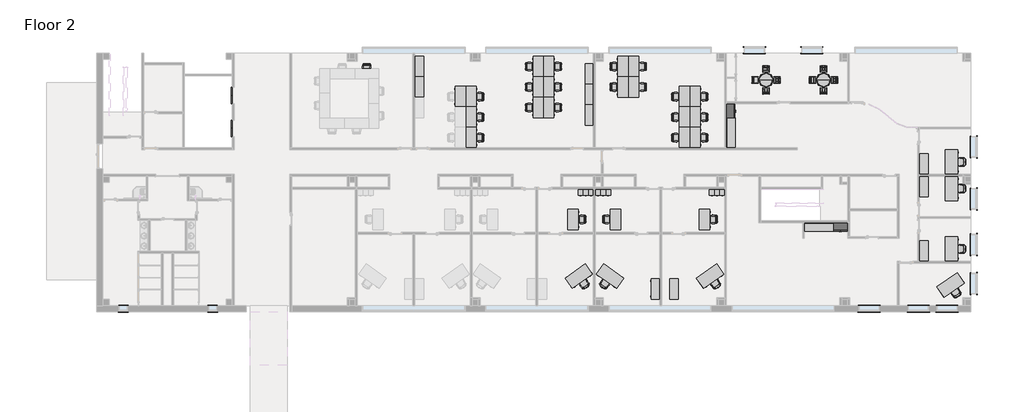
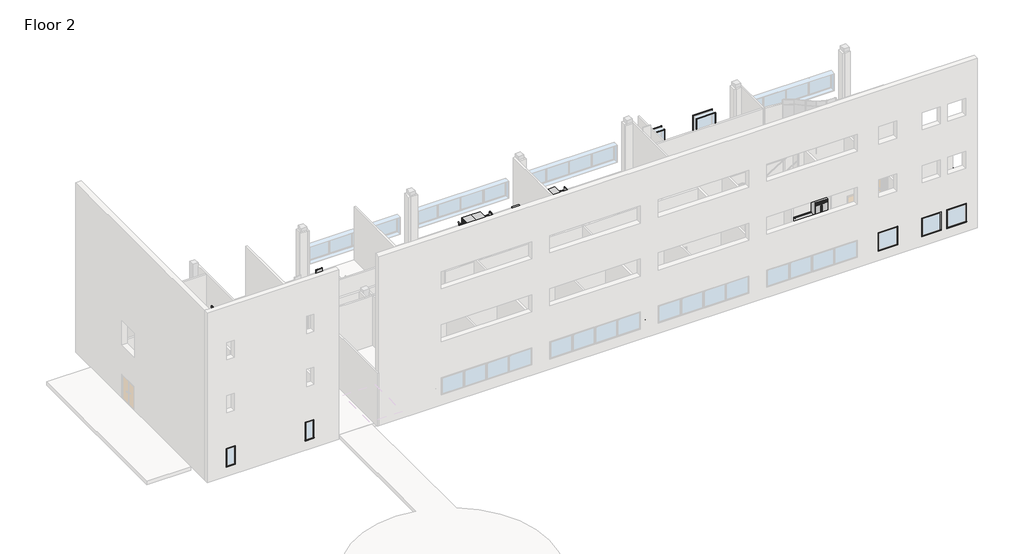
# One storey, part 6 of 6: 95 furniture elements, 26 proxies.
"""IFC4 building model written with IfcOpenShell, lengths in millimetres."""

from ifc_helpers import new_model, si_unit, origin, place, context, project, spatial, transform, mapped, element, save
from components import proxy_ae548678, proxy_0447ab4b, trim_window_exterior_flat_with_sill_05ca63db, trim_window_exterior_flat_with_sill_4912eb0d, trim_window_interior_flat_picture_frame_a1a3bc7c, trim_window_interior_flat_picture_frame_978fd00d, furniture_338da5bd, furniture_552c1472, furniture_48aa8ab9, chair_executive_chair_executive_8d69e98c, chair_executive_chair_executive_a5be4872, chair_stacking_chair_stacking_4df0970f, chair_task_arms_chair_task_arms_fa5a08ef, chair_task_arms_chair_task_arms_3c69ee15, furniture_b725675f, furniture_6bf0da8d, furniture_0f0bb7e9, furniture_a9e97cbc, furniture_f1eb905c, furniture_e30ff25b, furniture_33f25304, furniture_65204735, furniture_77f0a01d

model = new_model("IFC4")

# Units and contexts
model_context = context("Model", 3, world=origin())
ifc_project = project(units=[si_unit("LENGTHUNIT", "METRE", prefix="MILLI")], contexts=[model_context])

# Site, building, storey
site = spatial("IfcSite", under=ifc_project)
building = spatial("IfcBuilding", under=site)
storey = spatial("IfcBuildingStorey", under=building, Name="Floor 2", Elevation=5486.4)

# Proxies
placement = place(None, origin())
proxy_shape = proxy_ae548678(model_context)
element("IfcBuildingElementProxy", 1, Name="Elevator-Center : 72\" x 114\" Hospital min.", ObjectType="Elevator-Center : 72\" x 114\" Hospital min.", at=placement, inside=storey, context=model_context, shape_type="MappedRepresentation", body=[
    mapped(proxy_shape, transform((6707.2192024, 51882.5975333, 5486.4), x_axis=(0.0, 1.0, 0.0), y_axis=(-1.0, 0.0, 0.0), z_axis=(0.0, 0.0, 1.0))),
])
element("IfcBuildingElementProxy", 2, Name="Elevator-Center : 72\" x 114\" Hospital min.", ObjectType="Elevator-Center : 72\" x 114\" Hospital min.", at=placement, inside=storey, context=model_context, shape_type="MappedRepresentation", body=[
    mapped(proxy_shape, transform((6707.2192024, 54320.9975333, 5486.4), x_axis=(0.0, 1.0, 0.0), y_axis=(-1.0, 0.0, 0.0), z_axis=(0.0, 0.0, 1.0))),
])
proxy_2_shape = proxy_0447ab4b(model_context)
element("IfcBuildingElementProxy", 3, Name="Refrigerator-Side-by-Side : 42\" Left Side Freezer", ObjectType="Refrigerator-Side-by-Side : 42\" Left Side Freezer", at=placement, inside=storey, context=model_context, shape_type="MappedRepresentation", body=[
    mapped(proxy_2_shape, transform((51838.2567024, 44868.311889, 5486.4), x_axis=(1.0, 0.0, 0.0), y_axis=(0.0, 1.0, 0.0), z_axis=(0.0, 0.0, 1.0))),
])
element("IfcBuildingElementProxy", 4, Name="Refrigerator-Side-by-Side : 42\" Left Side Freezer", ObjectType="Refrigerator-Side-by-Side : 42\" Left Side Freezer", at=placement, inside=storey, context=model_context, shape_type="MappedRepresentation", body=[
    mapped(proxy_2_shape, transform((43251.4692024, 53086.799389, 5486.4), x_axis=(0.0, 1.0, 0.0), y_axis=(-1.0, 0.0, 0.0), z_axis=(0.0, 0.0, 1.0))),
])
trim_window_exterior_flat_with_sill_shape = trim_window_exterior_flat_with_sill_05ca63db(model_context)
element("IfcBuildingElementProxy", 5, Name="Trim-Window-Exterior-Flat : with Sill", ObjectType="Trim-Window-Exterior-Flat : with Sill", at=placement, inside=storey, context=model_context, shape_type="MappedRepresentation", body=[
    mapped(trim_window_exterior_flat_with_sill_shape, transform((61956.9817024, 46544.711889, 7924.8), x_axis=(0.0, 1.0, 0.0), y_axis=(0.0, 0.0, 1.0), z_axis=(1.0, 0.0, 0.0))),
])
element("IfcBuildingElementProxy", 6, Name="Trim-Window-Exterior-Flat : with Sill", ObjectType="Trim-Window-Exterior-Flat : with Sill", at=placement, inside=storey, context=model_context, shape_type="MappedRepresentation", body=[
    mapped(trim_window_exterior_flat_with_sill_shape, transform((61956.9817024, 43141.111889, 7924.8), x_axis=(0.0, 1.0, 0.0), y_axis=(0.0, 0.0, 1.0), z_axis=(1.0, 0.0, 0.0))),
])
element("IfcBuildingElementProxy", 7, Name="Trim-Window-Exterior-Flat : with Sill", ObjectType="Trim-Window-Exterior-Flat : with Sill", at=placement, inside=storey, context=model_context, shape_type="MappedRepresentation", body=[
    mapped(trim_window_exterior_flat_with_sill_shape, transform((61956.9817024, 40245.511889, 7924.8), x_axis=(0.0, 1.0, 0.0), y_axis=(0.0, 0.0, 1.0), z_axis=(1.0, 0.0, 0.0))),
])
element("IfcBuildingElementProxy", 8, Name="Trim-Window-Exterior-Flat : with Sill", ObjectType="Trim-Window-Exterior-Flat : with Sill", at=placement, inside=storey, context=model_context, shape_type="MappedRepresentation", body=[
    mapped(trim_window_exterior_flat_with_sill_shape, transform((61956.9817024, 50405.511889, 7924.8), x_axis=(0.0, 1.0, 0.0), y_axis=(0.0, 0.0, 1.0), z_axis=(1.0, 0.0, 0.0))),
])
element("IfcBuildingElementProxy", 9, Name="Trim-Window-Exterior-Flat : with Sill", ObjectType="Trim-Window-Exterior-Flat : with Sill", at=placement, inside=storey, context=model_context, shape_type="MappedRepresentation", body=[
    mapped(trim_window_exterior_flat_with_sill_shape, transform((59742.4192024, 38164.299389, 7924.8), x_axis=(1.0, 0.0, 0.0), y_axis=(0.0, 0.0, 1.0), z_axis=(0.0, -1.0, 0.0))),
])
element("IfcBuildingElementProxy", 10, Name="Trim-Window-Exterior-Flat : with Sill", ObjectType="Trim-Window-Exterior-Flat : with Sill", at=placement, inside=storey, context=model_context, shape_type="MappedRepresentation", body=[
    mapped(trim_window_exterior_flat_with_sill_shape, transform((57608.8192024, 38164.299389, 7924.8), x_axis=(1.0, 0.0, 0.0), y_axis=(0.0, 0.0, 1.0), z_axis=(0.0, -1.0, 0.0))),
])
element("IfcBuildingElementProxy", 11, Name="Trim-Window-Exterior-Flat : with Sill", ObjectType="Trim-Window-Exterior-Flat : with Sill", at=placement, inside=storey, context=model_context, shape_type="MappedRepresentation", body=[
    mapped(trim_window_exterior_flat_with_sill_shape, transform((53951.2192024, 38164.299389, 7924.8), x_axis=(1.0, 0.0, 0.0), y_axis=(0.0, 0.0, 1.0), z_axis=(0.0, -1.0, 0.0))),
])
element("IfcBuildingElementProxy", 12, Name="Trim-Window-Exterior-Flat : with Sill", ObjectType="Trim-Window-Exterior-Flat : with Sill", at=placement, inside=storey, context=model_context, shape_type="MappedRepresentation", body=[
    mapped(trim_window_exterior_flat_with_sill_shape, transform((45423.1692024, 57820.724389, 7924.8), x_axis=(-1.0, 0.0, 0.0), y_axis=(0.0, 0.0, 1.0), z_axis=(0.0, 1.0, 0.0))),
])
element("IfcBuildingElementProxy", 13, Name="Trim-Window-Exterior-Flat : with Sill", ObjectType="Trim-Window-Exterior-Flat : with Sill", at=placement, inside=storey, context=model_context, shape_type="MappedRepresentation", body=[
    mapped(trim_window_exterior_flat_with_sill_shape, transform((49690.3692024, 57820.724389, 7924.8), x_axis=(-1.0, 0.0, 0.0), y_axis=(0.0, 0.0, 1.0), z_axis=(0.0, 1.0, 0.0))),
])
trim_window_exterior_flat_with_sill_2_shape = trim_window_exterior_flat_with_sill_4912eb0d(model_context)
element("IfcBuildingElementProxy", 14, Name="Trim-Window-Exterior-Flat : with Sill", ObjectType="Trim-Window-Exterior-Flat : with Sill", at=placement, inside=storey, context=model_context, shape_type="MappedRepresentation", body=[
    mapped(trim_window_exterior_flat_with_sill_2_shape, transform((-1446.1807976, 38164.299389, 7924.8), x_axis=(1.0, 0.0, 0.0), y_axis=(0.0, 0.0, 1.0), z_axis=(0.0, -1.0, 0.0))),
])
element("IfcBuildingElementProxy", 15, Name="Trim-Window-Exterior-Flat : with Sill", ObjectType="Trim-Window-Exterior-Flat : with Sill", at=placement, inside=storey, context=model_context, shape_type="MappedRepresentation", body=[
    mapped(trim_window_exterior_flat_with_sill_2_shape, transform((5189.5692024, 38164.299389, 7924.8), x_axis=(1.0, 0.0, 0.0), y_axis=(0.0, 0.0, 1.0), z_axis=(0.0, -1.0, 0.0))),
])
trim_window_interior_flat_picture_frame_shape = trim_window_interior_flat_picture_frame_a1a3bc7c(model_context)
element("IfcBuildingElementProxy", 16, Name="Trim-Window-Interior-Flat : Picture Frame", ObjectType="Trim-Window-Interior-Flat : Picture Frame", at=placement, inside=storey, context=model_context, shape_type="MappedRepresentation", body=[
    mapped(trim_window_interior_flat_picture_frame_shape, transform((61502.9567024, 46544.711889, 7924.8), x_axis=(0.0, -1.0, 0.0), y_axis=(0.0, 0.0, 1.0), z_axis=(-1.0, 0.0, 0.0))),
])
element("IfcBuildingElementProxy", 17, Name="Trim-Window-Interior-Flat : Picture Frame", ObjectType="Trim-Window-Interior-Flat : Picture Frame", at=placement, inside=storey, context=model_context, shape_type="MappedRepresentation", body=[
    mapped(trim_window_interior_flat_picture_frame_shape, transform((61502.9567024, 43141.111889, 7924.8), x_axis=(0.0, -1.0, 0.0), y_axis=(0.0, 0.0, 1.0), z_axis=(-1.0, 0.0, 0.0))),
])
element("IfcBuildingElementProxy", 18, Name="Trim-Window-Interior-Flat : Picture Frame", ObjectType="Trim-Window-Interior-Flat : Picture Frame", at=placement, inside=storey, context=model_context, shape_type="MappedRepresentation", body=[
    mapped(trim_window_interior_flat_picture_frame_shape, transform((61502.9567024, 40245.511889, 7924.8), x_axis=(0.0, -1.0, 0.0), y_axis=(0.0, 0.0, 1.0), z_axis=(-1.0, 0.0, 0.0))),
])
element("IfcBuildingElementProxy", 19, Name="Trim-Window-Interior-Flat : Picture Frame", ObjectType="Trim-Window-Interior-Flat : Picture Frame", at=placement, inside=storey, context=model_context, shape_type="MappedRepresentation", body=[
    mapped(trim_window_interior_flat_picture_frame_shape, transform((61502.9567024, 50405.511889, 7924.8), x_axis=(0.0, -1.0, 0.0), y_axis=(0.0, 0.0, 1.0), z_axis=(-1.0, 0.0, 0.0))),
])
element("IfcBuildingElementProxy", 20, Name="Trim-Window-Interior-Flat : Picture Frame", ObjectType="Trim-Window-Interior-Flat : Picture Frame", at=placement, inside=storey, context=model_context, shape_type="MappedRepresentation", body=[
    mapped(trim_window_interior_flat_picture_frame_shape, transform((59742.4192024, 38618.324389, 7924.8), x_axis=(-1.0, 0.0, 0.0), y_axis=(0.0, 0.0, 1.0), z_axis=(0.0, 1.0, 0.0))),
])
element("IfcBuildingElementProxy", 21, Name="Trim-Window-Interior-Flat : Picture Frame", ObjectType="Trim-Window-Interior-Flat : Picture Frame", at=placement, inside=storey, context=model_context, shape_type="MappedRepresentation", body=[
    mapped(trim_window_interior_flat_picture_frame_shape, transform((57608.8192024, 38618.324389, 7924.8), x_axis=(-1.0, 0.0, 0.0), y_axis=(0.0, 0.0, 1.0), z_axis=(0.0, 1.0, 0.0))),
])
element("IfcBuildingElementProxy", 22, Name="Trim-Window-Interior-Flat : Picture Frame", ObjectType="Trim-Window-Interior-Flat : Picture Frame", at=placement, inside=storey, context=model_context, shape_type="MappedRepresentation", body=[
    mapped(trim_window_interior_flat_picture_frame_shape, transform((53951.2192024, 38618.324389, 7924.8), x_axis=(-1.0, 0.0, 0.0), y_axis=(0.0, 0.0, 1.0), z_axis=(0.0, 1.0, 0.0))),
])
element("IfcBuildingElementProxy", 23, Name="Trim-Window-Interior-Flat : Picture Frame", ObjectType="Trim-Window-Interior-Flat : Picture Frame", at=placement, inside=storey, context=model_context, shape_type="MappedRepresentation", body=[
    mapped(trim_window_interior_flat_picture_frame_shape, transform((45423.1692024, 57366.699389, 7924.8), x_axis=(1.0, 0.0, 0.0), y_axis=(0.0, 0.0, 1.0), z_axis=(0.0, -1.0, 0.0))),
])
element("IfcBuildingElementProxy", 24, Name="Trim-Window-Interior-Flat : Picture Frame", ObjectType="Trim-Window-Interior-Flat : Picture Frame", at=placement, inside=storey, context=model_context, shape_type="MappedRepresentation", body=[
    mapped(trim_window_interior_flat_picture_frame_shape, transform((49690.3692024, 57366.699389, 7924.8), x_axis=(1.0, 0.0, 0.0), y_axis=(0.0, 0.0, 1.0), z_axis=(0.0, -1.0, 0.0))),
])
trim_window_interior_flat_picture_frame_2_shape = trim_window_interior_flat_picture_frame_978fd00d(model_context)
element("IfcBuildingElementProxy", 25, Name="Trim-Window-Interior-Flat : Picture Frame", ObjectType="Trim-Window-Interior-Flat : Picture Frame", at=placement, inside=storey, context=model_context, shape_type="MappedRepresentation", body=[
    mapped(trim_window_interior_flat_picture_frame_2_shape, transform((-1446.1807976, 38618.324389, 7924.8), x_axis=(-1.0, 0.0, 0.0), y_axis=(0.0, 0.0, 1.0), z_axis=(0.0, 1.0, 0.0))),
])
element("IfcBuildingElementProxy", 26, Name="Trim-Window-Interior-Flat : Picture Frame", ObjectType="Trim-Window-Interior-Flat : Picture Frame", at=placement, inside=storey, context=model_context, shape_type="MappedRepresentation", body=[
    mapped(trim_window_interior_flat_picture_frame_2_shape, transform((5189.5692024, 38618.324389, 7924.8), x_axis=(-1.0, 0.0, 0.0), y_axis=(0.0, 0.0, 1.0), z_axis=(0.0, 1.0, 0.0))),
])

# Furniture
furniture_shape = furniture_338da5bd(model_context)
element("IfcFurniture", 27, ObjectType="Base Cabinet-Double Door & 2 Drawer : 30\"", at=placement, inside=storey, context=model_context, shape_type="MappedRepresentation", body=[
    mapped(furniture_shape, transform((49498.5939974, 44766.711889, 5486.4), x_axis=(1.0, 0.0, 0.0), y_axis=(0.0, 1.0, 0.0), z_axis=(0.0, 0.0, 1.0))),
])
element("IfcFurniture", 28, ObjectType="Base Cabinet-Double Door & 2 Drawer : 30\"", at=placement, inside=storey, context=model_context, shape_type="MappedRepresentation", body=[
    mapped(furniture_shape, transform((50260.5939974, 44766.711889, 5486.4), x_axis=(1.0, 0.0, 0.0), y_axis=(0.0, 1.0, 0.0), z_axis=(0.0, 0.0, 1.0))),
])
element("IfcFurniture", 29, ObjectType="Base Cabinet-Double Door & 2 Drawer : 30\"", at=placement, inside=storey, context=model_context, shape_type="MappedRepresentation", body=[
    mapped(furniture_shape, transform((43353.0692024, 50691.5741841, 5486.4), x_axis=(0.0, 1.0, 0.0), y_axis=(-1.0, 0.0, 0.0), z_axis=(0.0, 0.0, 1.0))),
])
element("IfcFurniture", 30, ObjectType="Base Cabinet-Double Door & 2 Drawer : 30\"", at=placement, inside=storey, context=model_context, shape_type="MappedRepresentation", body=[
    mapped(furniture_shape, transform((43353.0692024, 51453.5741841, 5486.4), x_axis=(0.0, 1.0, 0.0), y_axis=(-1.0, 0.0, 0.0), z_axis=(0.0, 0.0, 1.0))),
])
furniture_2_shape = furniture_552c1472(model_context)
element("IfcFurniture", 31, ObjectType="Cabinet-File 3 Drawer : 15\" x 18\"", at=placement, inside=storey, context=model_context, shape_type="MappedRepresentation", body=[
    mapped(furniture_2_shape, transform((33930.5656494, 47175.7961891, 5486.4), x_axis=(1.0, 0.0, 0.0), y_axis=(0.0, 1.0, 0.0), z_axis=(0.0, 0.0, 1.0))),
])
element("IfcFurniture", 32, ObjectType="Cabinet-File 3 Drawer : 15\" x 18\"", at=placement, inside=storey, context=model_context, shape_type="MappedRepresentation", body=[
    mapped(furniture_2_shape, transform((34311.5656494, 47175.7961891, 5486.4), x_axis=(1.0, 0.0, 0.0), y_axis=(0.0, 1.0, 0.0), z_axis=(0.0, 0.0, 1.0))),
])
element("IfcFurniture", 33, ObjectType="Cabinet-File 3 Drawer : 15\" x 18\"", at=placement, inside=storey, context=model_context, shape_type="MappedRepresentation", body=[
    mapped(furniture_2_shape, transform((34692.5656494, 47175.7961891, 5486.4), x_axis=(1.0, 0.0, 0.0), y_axis=(0.0, 1.0, 0.0), z_axis=(0.0, 0.0, 1.0))),
])
furniture_3_shape = furniture_48aa8ab9(model_context)
element("IfcFurniture", 34, ObjectType="Cabinet-File 3 Drawer : 15\" x 18\"", at=placement, inside=storey, context=model_context, shape_type="MappedRepresentation", body=[
    mapped(furniture_3_shape, transform((33154.0727553, 47175.7961891, 5486.4), x_axis=(-1.0, 0.0, 0.0), y_axis=(0.0, -1.0, 0.0), z_axis=(0.0, 0.0, 1.0))),
])
element("IfcFurniture", 35, ObjectType="Cabinet-File 3 Drawer : 15\" x 18\"", at=placement, inside=storey, context=model_context, shape_type="MappedRepresentation", body=[
    mapped(furniture_3_shape, transform((32773.0727553, 47175.7961891, 5486.4), x_axis=(-1.0, 0.0, 0.0), y_axis=(0.0, -1.0, 0.0), z_axis=(0.0, 0.0, 1.0))),
])
element("IfcFurniture", 36, ObjectType="Cabinet-File 3 Drawer : 15\" x 18\"", at=placement, inside=storey, context=model_context, shape_type="MappedRepresentation", body=[
    mapped(furniture_3_shape, transform((32392.0727553, 47175.7961891, 5486.4), x_axis=(-1.0, 0.0, 0.0), y_axis=(0.0, -1.0, 0.0), z_axis=(0.0, 0.0, 1.0))),
])
element("IfcFurniture", 37, ObjectType="Cabinet-File 3 Drawer : 15\" x 18\"", at=placement, inside=storey, context=model_context, shape_type="MappedRepresentation", body=[
    mapped(furniture_3_shape, transform((42910.8477553, 47175.7961891, 5486.4), x_axis=(-1.0, 0.0, 0.0), y_axis=(0.0, -1.0, 0.0), z_axis=(0.0, 0.0, 1.0))),
])
element("IfcFurniture", 38, ObjectType="Cabinet-File 3 Drawer : 15\" x 18\"", at=placement, inside=storey, context=model_context, shape_type="MappedRepresentation", body=[
    mapped(furniture_3_shape, transform((42529.8477553, 47175.7961891, 5486.4), x_axis=(-1.0, 0.0, 0.0), y_axis=(0.0, -1.0, 0.0), z_axis=(0.0, 0.0, 1.0))),
])
element("IfcFurniture", 39, ObjectType="Cabinet-File 3 Drawer : 15\" x 18\"", at=placement, inside=storey, context=model_context, shape_type="MappedRepresentation", body=[
    mapped(furniture_3_shape, transform((42148.8477553, 47175.7961891, 5486.4), x_axis=(-1.0, 0.0, 0.0), y_axis=(0.0, -1.0, 0.0), z_axis=(0.0, 0.0, 1.0))),
])
chair_executive_chair_executive_shape = chair_executive_chair_executive_8d69e98c(model_context)
element("IfcFurniture", 40, ObjectType="Chair-Executive : Chair-Executive", at=placement, inside=storey, context=model_context, shape_type="MappedRepresentation", body=[
    mapped(chair_executive_chair_executive_shape, transform((34189.995015, 40313.6122918, 5486.4), x_axis=(0.819152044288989, -0.57357643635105, 0.0), y_axis=(0.57357643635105, 0.819152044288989, 0.0), z_axis=(0.0, 0.0, 1.0))),
])
element("IfcFurniture", 41, ObjectType="Chair-Executive : Chair-Executive", at=placement, inside=storey, context=model_context, shape_type="MappedRepresentation", body=[
    mapped(chair_executive_chair_executive_shape, transform((60783.2356072, 47167.3085693, 5486.4), x_axis=(0.0, 1.0, 0.0), y_axis=(-1.0, 0.0, 0.0), z_axis=(0.0, 0.0, 1.0))),
])
chair_executive_chair_executive_2_shape = chair_executive_chair_executive_a5be4872(model_context)
element("IfcFurniture", 42, ObjectType="Chair-Executive : Chair-Executive", at=placement, inside=storey, context=model_context, shape_type="MappedRepresentation", body=[
    mapped(chair_executive_chair_executive_2_shape, transform((32894.6433897, 40313.6122918, 5486.4), x_axis=(-0.819152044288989, -0.57357643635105, 0.0), y_axis=(0.57357643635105, -0.819152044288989, 0.0), z_axis=(0.0, 0.0, 1.0))),
])
element("IfcFurniture", 43, ObjectType="Chair-Executive : Chair-Executive", at=placement, inside=storey, context=model_context, shape_type="MappedRepresentation", body=[
    mapped(chair_executive_chair_executive_2_shape, transform((42651.4183897, 40313.6122918, 5486.4), x_axis=(-0.819152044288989, -0.57357643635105, 0.0), y_axis=(0.57357643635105, -0.819152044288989, 0.0), z_axis=(0.0, 0.0, 1.0))),
])
element("IfcFurniture", 44, ObjectType="Chair-Executive : Chair-Executive", at=placement, inside=storey, context=model_context, shape_type="MappedRepresentation", body=[
    mapped(chair_executive_chair_executive_2_shape, transform((60510.0435605, 39658.0167973, 5486.4), x_axis=(-0.819152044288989, -0.57357643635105, 0.0), y_axis=(0.57357643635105, -0.819152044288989, 0.0), z_axis=(0.0, 0.0, 1.0))),
])
element("IfcFurniture", 45, ObjectType="Chair-Executive : Chair-Executive", at=placement, inside=storey, context=model_context, shape_type="MappedRepresentation", body=[
    mapped(chair_executive_chair_executive_2_shape, transform((60783.2356072, 42969.3652087, 5486.4), x_axis=(0.0, -1.0, 0.0), y_axis=(1.0, 0.0, 0.0), z_axis=(0.0, 0.0, 1.0))),
])
element("IfcFurniture", 46, ObjectType="Chair-Executive : Chair-Executive", at=placement, inside=storey, context=model_context, shape_type="MappedRepresentation", body=[
    mapped(chair_executive_chair_executive_2_shape, transform((60783.2356072, 49427.3152087, 5486.4), x_axis=(0.0, -1.0, 0.0), y_axis=(1.0, 0.0, 0.0), z_axis=(0.0, 0.0, 1.0))),
])
chair_stacking_chair_stacking_shape = chair_stacking_chair_stacking_4df0970f(model_context)
element("IfcFurniture", 47, ObjectType="Chair-Stacking : Chair-Stacking", at=placement, inside=storey, context=model_context, shape_type="MappedRepresentation", body=[
    mapped(chair_stacking_chair_stacking_shape, transform((50739.3683827, 54457.5746587, 5486.4), x_axis=(1.0, 0.0, 0.0), y_axis=(0.0, 1.0, 0.0), z_axis=(0.0, 0.0, 1.0))),
])
element("IfcFurniture", 48, ObjectType="Chair-Stacking : Chair-Stacking", at=placement, inside=storey, context=model_context, shape_type="MappedRepresentation", body=[
    mapped(chair_stacking_chair_stacking_shape, transform((51482.0706259, 55558.3752626, 5486.4), x_axis=(0.0, 1.0, 0.0), y_axis=(-1.0, 0.0, 0.0), z_axis=(0.0, 0.0, 1.0))),
])
element("IfcFurniture", 49, ObjectType="Chair-Stacking : Chair-Stacking", at=placement, inside=storey, context=model_context, shape_type="MappedRepresentation", body=[
    mapped(chair_stacking_chair_stacking_shape, transform((50381.270022, 56301.0775058, 5486.4), x_axis=(-1.0, 0.0, 0.0), y_axis=(0.0, -1.0, 0.0), z_axis=(0.0, 0.0, 1.0))),
])
element("IfcFurniture", 50, ObjectType="Chair-Stacking : Chair-Stacking", at=placement, inside=storey, context=model_context, shape_type="MappedRepresentation", body=[
    mapped(chair_stacking_chair_stacking_shape, transform((49638.5677788, 55200.276902, 5486.4), x_axis=(0.0, -1.0, 0.0), y_axis=(1.0, 0.0, 0.0), z_axis=(0.0, 0.0, 1.0))),
])
element("IfcFurniture", 51, ObjectType="Chair-Stacking : Chair-Stacking", at=placement, inside=storey, context=model_context, shape_type="MappedRepresentation", body=[
    mapped(chair_stacking_chair_stacking_shape, transform((46472.1683827, 54457.5746587, 5486.4), x_axis=(1.0, 0.0, 0.0), y_axis=(0.0, 1.0, 0.0), z_axis=(0.0, 0.0, 1.0))),
])
element("IfcFurniture", 52, ObjectType="Chair-Stacking : Chair-Stacking", at=placement, inside=storey, context=model_context, shape_type="MappedRepresentation", body=[
    mapped(chair_stacking_chair_stacking_shape, transform((47214.8706259, 55558.3752626, 5486.4), x_axis=(0.0, 1.0, 0.0), y_axis=(-1.0, 0.0, 0.0), z_axis=(0.0, 0.0, 1.0))),
])
element("IfcFurniture", 53, ObjectType="Chair-Stacking : Chair-Stacking", at=placement, inside=storey, context=model_context, shape_type="MappedRepresentation", body=[
    mapped(chair_stacking_chair_stacking_shape, transform((46114.070022, 56301.0775058, 5486.4), x_axis=(-1.0, 0.0, 0.0), y_axis=(0.0, -1.0, 0.0), z_axis=(0.0, 0.0, 1.0))),
])
element("IfcFurniture", 54, ObjectType="Chair-Stacking : Chair-Stacking", at=placement, inside=storey, context=model_context, shape_type="MappedRepresentation", body=[
    mapped(chair_stacking_chair_stacking_shape, transform((45371.3677788, 55200.276902, 5486.4), x_axis=(0.0, -1.0, 0.0), y_axis=(1.0, 0.0, 0.0), z_axis=(0.0, 0.0, 1.0))),
])
chair_task_arms_chair_task_arms_shape = chair_task_arms_chair_task_arms_fa5a08ef(model_context)
element("IfcFurniture", 55, ObjectType="Chair-Task Arms : Chair-Task Arms", at=placement, inside=storey, context=model_context, shape_type="MappedRepresentation", body=[
    mapped(chair_task_arms_chair_task_arms_shape, transform((34425.0733007, 45161.7027087, 5486.4), x_axis=(0.0, -1.0, 0.0), y_axis=(1.0, 0.0, 0.0), z_axis=(0.0, 0.0, 1.0))),
])
element("IfcFurniture", 56, ObjectType="Chair-Task Arms : Chair-Task Arms", at=placement, inside=storey, context=model_context, shape_type="MappedRepresentation", body=[
    mapped(chair_task_arms_chair_task_arms_shape, transform((16765.9004892, 56317.2577906, 5486.4), x_axis=(-1.0, 0.0, 0.0), y_axis=(0.0, -1.0, 0.0), z_axis=(0.0, 0.0, 1.0))),
])
element("IfcFurniture", 57, ObjectType="Chair-Task Arms : Chair-Task Arms", at=placement, inside=storey, context=model_context, shape_type="MappedRepresentation", body=[
    mapped(chair_task_arms_chair_task_arms_shape, transform((41712.8009489, 50950.3210693, 5486.4), x_axis=(0.0, 1.0, 0.0), y_axis=(-1.0, 0.0, 0.0), z_axis=(0.0, 0.0, 1.0))),
])
element("IfcFurniture", 58, ObjectType="Chair-Task Arms : Chair-Task Arms", at=placement, inside=storey, context=model_context, shape_type="MappedRepresentation", body=[
    mapped(chair_task_arms_chair_task_arms_shape, transform((37134.7797162, 56233.5210693, 5486.4), x_axis=(0.0, 1.0, 0.0), y_axis=(-1.0, 0.0, 0.0), z_axis=(0.0, 0.0, 1.0))),
])
element("IfcFurniture", 59, ObjectType="Chair-Task Arms : Chair-Task Arms", at=placement, inside=storey, context=model_context, shape_type="MappedRepresentation", body=[
    mapped(chair_task_arms_chair_task_arms_shape, transform((37134.7797162, 54709.5210693, 5486.4), x_axis=(0.0, 1.0, 0.0), y_axis=(-1.0, 0.0, 0.0), z_axis=(0.0, 0.0, 1.0))),
])
element("IfcFurniture", 60, ObjectType="Chair-Task Arms : Chair-Task Arms", at=placement, inside=storey, context=model_context, shape_type="MappedRepresentation", body=[
    mapped(chair_task_arms_chair_task_arms_shape, transform((41712.8009489, 52474.3210693, 5486.4), x_axis=(0.0, 1.0, 0.0), y_axis=(-1.0, 0.0, 0.0), z_axis=(0.0, 0.0, 1.0))),
])
element("IfcFurniture", 61, ObjectType="Chair-Task Arms : Chair-Task Arms", at=placement, inside=storey, context=model_context, shape_type="MappedRepresentation", body=[
    mapped(chair_task_arms_chair_task_arms_shape, transform((41712.8009489, 53998.3210693, 5486.4), x_axis=(0.0, 1.0, 0.0), y_axis=(-1.0, 0.0, 0.0), z_axis=(0.0, 0.0, 1.0))),
])
element("IfcFurniture", 62, ObjectType="Chair-Task Arms : Chair-Task Arms", at=placement, inside=storey, context=model_context, shape_type="MappedRepresentation", body=[
    mapped(chair_task_arms_chair_task_arms_shape, transform((25071.315104, 50950.3210693, 5486.4), x_axis=(0.0, 1.0, 0.0), y_axis=(-1.0, 0.0, 0.0), z_axis=(0.0, 0.0, 1.0))),
])
element("IfcFurniture", 63, ObjectType="Chair-Task Arms : Chair-Task Arms", at=placement, inside=storey, context=model_context, shape_type="MappedRepresentation", body=[
    mapped(chair_task_arms_chair_task_arms_shape, transform((25071.315104, 52474.3210693, 5486.4), x_axis=(0.0, 1.0, 0.0), y_axis=(-1.0, 0.0, 0.0), z_axis=(0.0, 0.0, 1.0))),
])
element("IfcFurniture", 64, ObjectType="Chair-Task Arms : Chair-Task Arms", at=placement, inside=storey, context=model_context, shape_type="MappedRepresentation", body=[
    mapped(chair_task_arms_chair_task_arms_shape, transform((25071.315104, 53998.3210693, 5486.4), x_axis=(0.0, 1.0, 0.0), y_axis=(-1.0, 0.0, 0.0), z_axis=(0.0, 0.0, 1.0))),
])
element("IfcFurniture", 65, ObjectType="Chair-Task Arms : Chair-Task Arms", at=placement, inside=storey, context=model_context, shape_type="MappedRepresentation", body=[
    mapped(chair_task_arms_chair_task_arms_shape, transform((30844.5832347, 53185.5210693, 5486.4), x_axis=(0.0, 1.0, 0.0), y_axis=(-1.0, 0.0, 0.0), z_axis=(0.0, 0.0, 1.0))),
])
element("IfcFurniture", 66, ObjectType="Chair-Task Arms : Chair-Task Arms", at=placement, inside=storey, context=model_context, shape_type="MappedRepresentation", body=[
    mapped(chair_task_arms_chair_task_arms_shape, transform((30844.5832347, 54709.5210693, 5486.4), x_axis=(0.0, 1.0, 0.0), y_axis=(-1.0, 0.0, 0.0), z_axis=(0.0, 0.0, 1.0))),
])
element("IfcFurniture", 67, ObjectType="Chair-Task Arms : Chair-Task Arms", at=placement, inside=storey, context=model_context, shape_type="MappedRepresentation", body=[
    mapped(chair_task_arms_chair_task_arms_shape, transform((30844.5832347, 56233.5210693, 5486.4), x_axis=(0.0, 1.0, 0.0), y_axis=(-1.0, 0.0, 0.0), z_axis=(0.0, 0.0, 1.0))),
])
chair_task_arms_chair_task_arms_2_shape = chair_task_arms_chair_task_arms_3c69ee15(model_context)
element("IfcFurniture", 68, ObjectType="Chair-Task Arms : Chair-Task Arms", at=placement, inside=storey, context=model_context, shape_type="MappedRepresentation", body=[
    mapped(chair_task_arms_chair_task_arms_2_shape, transform((32659.565104, 45161.7027087, 5486.4), x_axis=(0.0, -1.0, 0.0), y_axis=(1.0, 0.0, 0.0), z_axis=(0.0, 0.0, 1.0))),
])
element("IfcFurniture", 69, ObjectType="Chair-Task Arms : Chair-Task Arms", at=placement, inside=storey, context=model_context, shape_type="MappedRepresentation", body=[
    mapped(chair_task_arms_chair_task_arms_2_shape, transform((42416.340104, 45161.7027087, 5486.4), x_axis=(0.0, -1.0, 0.0), y_axis=(1.0, 0.0, 0.0), z_axis=(0.0, 0.0, 1.0))),
])
element("IfcFurniture", 70, ObjectType="Chair-Task Arms : Chair-Task Arms", at=placement, inside=storey, context=model_context, shape_type="MappedRepresentation", body=[
    mapped(chair_task_arms_chair_task_arms_2_shape, transform((39541.3091456, 50950.3210693, 5486.4), x_axis=(0.0, 1.0, 0.0), y_axis=(-1.0, 0.0, 0.0), z_axis=(0.0, 0.0, 1.0))),
])
element("IfcFurniture", 71, ObjectType="Chair-Task Arms : Chair-Task Arms", at=placement, inside=storey, context=model_context, shape_type="MappedRepresentation", body=[
    mapped(chair_task_arms_chair_task_arms_2_shape, transform((34963.2879129, 56233.5210693, 5486.4), x_axis=(0.0, 1.0, 0.0), y_axis=(-1.0, 0.0, 0.0), z_axis=(0.0, 0.0, 1.0))),
])
element("IfcFurniture", 72, ObjectType="Chair-Task Arms : Chair-Task Arms", at=placement, inside=storey, context=model_context, shape_type="MappedRepresentation", body=[
    mapped(chair_task_arms_chair_task_arms_2_shape, transform((34963.2879129, 54709.5210693, 5486.4), x_axis=(0.0, 1.0, 0.0), y_axis=(-1.0, 0.0, 0.0), z_axis=(0.0, 0.0, 1.0))),
])
element("IfcFurniture", 73, ObjectType="Chair-Task Arms : Chair-Task Arms", at=placement, inside=storey, context=model_context, shape_type="MappedRepresentation", body=[
    mapped(chair_task_arms_chair_task_arms_2_shape, transform((39541.3091456, 52474.3210693, 5486.4), x_axis=(0.0, 1.0, 0.0), y_axis=(-1.0, 0.0, 0.0), z_axis=(0.0, 0.0, 1.0))),
])
element("IfcFurniture", 74, ObjectType="Chair-Task Arms : Chair-Task Arms", at=placement, inside=storey, context=model_context, shape_type="MappedRepresentation", body=[
    mapped(chair_task_arms_chair_task_arms_2_shape, transform((39541.3091456, 53998.3210693, 5486.4), x_axis=(0.0, 1.0, 0.0), y_axis=(-1.0, 0.0, 0.0), z_axis=(0.0, 0.0, 1.0))),
])
element("IfcFurniture", 75, ObjectType="Chair-Task Arms : Chair-Task Arms", at=placement, inside=storey, context=model_context, shape_type="MappedRepresentation", body=[
    mapped(chair_task_arms_chair_task_arms_2_shape, transform((28673.0914314, 53185.5210693, 5486.4), x_axis=(0.0, 1.0, 0.0), y_axis=(-1.0, 0.0, 0.0), z_axis=(0.0, 0.0, 1.0))),
])
element("IfcFurniture", 76, ObjectType="Chair-Task Arms : Chair-Task Arms", at=placement, inside=storey, context=model_context, shape_type="MappedRepresentation", body=[
    mapped(chair_task_arms_chair_task_arms_2_shape, transform((28673.0914314, 54709.5210693, 5486.4), x_axis=(0.0, 1.0, 0.0), y_axis=(-1.0, 0.0, 0.0), z_axis=(0.0, 0.0, 1.0))),
])
element("IfcFurniture", 77, ObjectType="Chair-Task Arms : Chair-Task Arms", at=placement, inside=storey, context=model_context, shape_type="MappedRepresentation", body=[
    mapped(chair_task_arms_chair_task_arms_2_shape, transform((28673.0914314, 56233.5210693, 5486.4), x_axis=(0.0, 1.0, 0.0), y_axis=(-1.0, 0.0, 0.0), z_axis=(0.0, 0.0, 1.0))),
])
furniture_4_shape = furniture_b725675f(model_context)
element("IfcFurniture", 78, ObjectType="Counter Top : 24\" Depth", at=placement, inside=storey, context=model_context, shape_type="MappedRepresentation", body=[
    mapped(furniture_4_shape, transform((50336.7939974, 44766.711889, 5486.4), x_axis=(1.0, 0.0, 0.0), y_axis=(0.0, 1.0, 0.0), z_axis=(0.0, 0.0, 1.0))),
])
furniture_5_shape = furniture_6bf0da8d(model_context)
element("IfcFurniture", 79, ObjectType="Counter Top : 24\" Depth", at=placement, inside=storey, context=model_context, shape_type="MappedRepresentation", body=[
    mapped(furniture_5_shape, transform((43353.0692024, 51529.7741841, 5486.4), x_axis=(0.0, 1.0, 0.0), y_axis=(-1.0, 0.0, 0.0), z_axis=(0.0, 0.0, 1.0))),
])
furniture_6_shape = furniture_0f0bb7e9(model_context)
element("IfcFurniture", 80, ObjectType="Credenza : 60\" x 24\"", at=placement, inside=storey, context=model_context, shape_type="MappedRepresentation", body=[
    mapped(furniture_6_shape, transform((39442.8745302, 39804.9676267, 5486.4), x_axis=(0.0, 1.0, 0.0), y_axis=(-1.0, 0.0, 0.0), z_axis=(0.0, 0.0, 1.0))),
])
element("IfcFurniture", 81, ObjectType="Credenza : 60\" x 24\"", at=placement, inside=storey, context=model_context, shape_type="MappedRepresentation", body=[
    mapped(furniture_6_shape, transform((58024.5620302, 42616.4301267, 5486.4), x_axis=(0.0, 1.0, 0.0), y_axis=(-1.0, 0.0, 0.0), z_axis=(0.0, 0.0, 1.0))),
])
element("IfcFurniture", 82, ObjectType="Credenza : 60\" x 24\"", at=placement, inside=storey, context=model_context, shape_type="MappedRepresentation", body=[
    mapped(furniture_6_shape, transform((58024.5620302, 49074.3801267, 5486.4), x_axis=(0.0, 1.0, 0.0), y_axis=(-1.0, 0.0, 0.0), z_axis=(0.0, 0.0, 1.0))),
])
furniture_7_shape = furniture_a9e97cbc(model_context)
element("IfcFurniture", 83, ObjectType="Credenza : 60\" x 24\"", at=placement, inside=storey, context=model_context, shape_type="MappedRepresentation", body=[
    mapped(furniture_7_shape, transform((38074.8138745, 39804.9676267, 5486.4), x_axis=(0.0, 1.0, 0.0), y_axis=(-1.0, 0.0, 0.0), z_axis=(0.0, 0.0, 1.0))),
])
element("IfcFurniture", 84, ObjectType="Credenza : 60\" x 24\"", at=placement, inside=storey, context=model_context, shape_type="MappedRepresentation", body=[
    mapped(furniture_7_shape, transform((58024.5620302, 47520.2436513, 5486.4), x_axis=(0.0, -1.0, 0.0), y_axis=(1.0, 0.0, 0.0), z_axis=(0.0, 0.0, 1.0))),
])
element("IfcFurniture", 85, ObjectType="Credenza : 60\" x 24\"", at=placement, inside=storey, context=model_context, shape_type="MappedRepresentation", body=[
    mapped(furniture_7_shape, transform((33201.1888745, 52709.7551267, 5486.4), x_axis=(0.0, 1.0, 0.0), y_axis=(-1.0, 0.0, 0.0), z_axis=(0.0, 0.0, 1.0))),
])
element("IfcFurniture", 86, ObjectType="Credenza : 60\" x 24\"", at=placement, inside=storey, context=model_context, shape_type="MappedRepresentation", body=[
    mapped(furniture_7_shape, transform((33201.1888745, 54233.7551267, 5486.4), x_axis=(0.0, 1.0, 0.0), y_axis=(-1.0, 0.0, 0.0), z_axis=(0.0, 0.0, 1.0))),
])
element("IfcFurniture", 87, ObjectType="Credenza : 60\" x 24\"", at=placement, inside=storey, context=model_context, shape_type="MappedRepresentation", body=[
    mapped(furniture_7_shape, transform((33201.1888745, 55757.7551267, 5486.4), x_axis=(0.0, 1.0, 0.0), y_axis=(-1.0, 0.0, 0.0), z_axis=(0.0, 0.0, 1.0))),
])
element("IfcFurniture", 88, ObjectType="Credenza : 60\" x 24\"", at=placement, inside=storey, context=model_context, shape_type="MappedRepresentation", body=[
    mapped(furniture_7_shape, transform((20542.0995302, 56434.0561513, 5486.4), x_axis=(0.0, -1.0, 0.0), y_axis=(1.0, 0.0, 0.0), z_axis=(0.0, 0.0, 1.0))),
])
element("IfcFurniture", 89, ObjectType="Credenza : 60\" x 24\"", at=placement, inside=storey, context=model_context, shape_type="MappedRepresentation", body=[
    mapped(furniture_7_shape, transform((20542.0995302, 54910.0561513, 5486.4), x_axis=(0.0, -1.0, 0.0), y_axis=(1.0, 0.0, 0.0), z_axis=(0.0, 0.0, 1.0))),
])
furniture_8_shape = furniture_f1eb905c(model_context)
element("IfcFurniture", 90, ObjectType="Desk : 60\" x 30\"", at=placement, inside=storey, context=model_context, shape_type="MappedRepresentation", body=[
    mapped(furniture_8_shape, transform((34748.8192024, 45782.711889, 5486.4), x_axis=(0.0, -1.0, 0.0), y_axis=(1.0, 0.0, 0.0), z_axis=(0.0, 0.0, 1.0))),
])
element("IfcFurniture", 91, ObjectType="Desk : 60\" x 30\"", at=placement, inside=storey, context=model_context, shape_type="MappedRepresentation", body=[
    mapped(furniture_8_shape, transform((41389.0550473, 50329.311889, 5486.4), x_axis=(0.0, 1.0, 0.0), y_axis=(-1.0, 0.0, 0.0), z_axis=(0.0, 0.0, 1.0))),
])
element("IfcFurniture", 92, ObjectType="Desk : 60\" x 30\"", at=placement, inside=storey, context=model_context, shape_type="MappedRepresentation", body=[
    mapped(furniture_8_shape, transform((36811.0338145, 55612.511889, 5486.4), x_axis=(0.0, 1.0, 0.0), y_axis=(-1.0, 0.0, 0.0), z_axis=(0.0, 0.0, 1.0))),
])
element("IfcFurniture", 93, ObjectType="Desk : 60\" x 30\"", at=placement, inside=storey, context=model_context, shape_type="MappedRepresentation", body=[
    mapped(furniture_8_shape, transform((36811.0338145, 54088.511889, 5486.4), x_axis=(0.0, 1.0, 0.0), y_axis=(-1.0, 0.0, 0.0), z_axis=(0.0, 0.0, 1.0))),
])
element("IfcFurniture", 94, ObjectType="Desk : 60\" x 30\"", at=placement, inside=storey, context=model_context, shape_type="MappedRepresentation", body=[
    mapped(furniture_8_shape, transform((41389.0550473, 51853.311889, 5486.4), x_axis=(0.0, 1.0, 0.0), y_axis=(-1.0, 0.0, 0.0), z_axis=(0.0, 0.0, 1.0))),
])
element("IfcFurniture", 95, ObjectType="Desk : 60\" x 30\"", at=placement, inside=storey, context=model_context, shape_type="MappedRepresentation", body=[
    mapped(furniture_8_shape, transform((41389.0550473, 53377.311889, 5486.4), x_axis=(0.0, 1.0, 0.0), y_axis=(-1.0, 0.0, 0.0), z_axis=(0.0, 0.0, 1.0))),
])
element("IfcFurniture", 96, ObjectType="Desk : 60\" x 30\"", at=placement, inside=storey, context=model_context, shape_type="MappedRepresentation", body=[
    mapped(furniture_8_shape, transform((24747.5692024, 50329.311889, 5486.4), x_axis=(0.0, 1.0, 0.0), y_axis=(-1.0, 0.0, 0.0), z_axis=(0.0, 0.0, 1.0))),
])
element("IfcFurniture", 97, ObjectType="Desk : 60\" x 30\"", at=placement, inside=storey, context=model_context, shape_type="MappedRepresentation", body=[
    mapped(furniture_8_shape, transform((24747.5692024, 51853.311889, 5486.4), x_axis=(0.0, 1.0, 0.0), y_axis=(-1.0, 0.0, 0.0), z_axis=(0.0, 0.0, 1.0))),
])
element("IfcFurniture", 98, ObjectType="Desk : 60\" x 30\"", at=placement, inside=storey, context=model_context, shape_type="MappedRepresentation", body=[
    mapped(furniture_8_shape, transform((24747.5692024, 53377.311889, 5486.4), x_axis=(0.0, 1.0, 0.0), y_axis=(-1.0, 0.0, 0.0), z_axis=(0.0, 0.0, 1.0))),
])
element("IfcFurniture", 99, ObjectType="Desk : 60\" x 30\"", at=placement, inside=storey, context=model_context, shape_type="MappedRepresentation", body=[
    mapped(furniture_8_shape, transform((30520.8373331, 52564.511889, 5486.4), x_axis=(0.0, 1.0, 0.0), y_axis=(-1.0, 0.0, 0.0), z_axis=(0.0, 0.0, 1.0))),
])
element("IfcFurniture", 100, ObjectType="Desk : 60\" x 30\"", at=placement, inside=storey, context=model_context, shape_type="MappedRepresentation", body=[
    mapped(furniture_8_shape, transform((30520.8373331, 54088.511889, 5486.4), x_axis=(0.0, 1.0, 0.0), y_axis=(-1.0, 0.0, 0.0), z_axis=(0.0, 0.0, 1.0))),
])
element("IfcFurniture", 101, ObjectType="Desk : 60\" x 30\"", at=placement, inside=storey, context=model_context, shape_type="MappedRepresentation", body=[
    mapped(furniture_8_shape, transform((30520.8373331, 55612.511889, 5486.4), x_axis=(0.0, 1.0, 0.0), y_axis=(-1.0, 0.0, 0.0), z_axis=(0.0, 0.0, 1.0))),
])
furniture_9_shape = furniture_e30ff25b(model_context)
element("IfcFurniture", 102, ObjectType="Desk : 60\" x 30\"", at=placement, inside=storey, context=model_context, shape_type="MappedRepresentation", body=[
    mapped(furniture_9_shape, transform((32335.8192024, 45782.711889, 5486.4), x_axis=(0.0, -1.0, 0.0), y_axis=(1.0, 0.0, 0.0), z_axis=(0.0, 0.0, 1.0))),
])
element("IfcFurniture", 103, ObjectType="Desk : 60\" x 30\"", at=placement, inside=storey, context=model_context, shape_type="MappedRepresentation", body=[
    mapped(furniture_9_shape, transform((42092.5942024, 45782.711889, 5486.4), x_axis=(0.0, -1.0, 0.0), y_axis=(1.0, 0.0, 0.0), z_axis=(0.0, 0.0, 1.0))),
])
element("IfcFurniture", 104, ObjectType="Desk : 60\" x 30\"", at=placement, inside=storey, context=model_context, shape_type="MappedRepresentation", body=[
    mapped(furniture_9_shape, transform((39865.0550473, 50329.311889, 5486.4), x_axis=(0.0, 1.0, 0.0), y_axis=(-1.0, 0.0, 0.0), z_axis=(0.0, 0.0, 1.0))),
])
element("IfcFurniture", 105, ObjectType="Desk : 60\" x 30\"", at=placement, inside=storey, context=model_context, shape_type="MappedRepresentation", body=[
    mapped(furniture_9_shape, transform((35287.0338145, 55612.511889, 5486.4), x_axis=(0.0, 1.0, 0.0), y_axis=(-1.0, 0.0, 0.0), z_axis=(0.0, 0.0, 1.0))),
])
element("IfcFurniture", 106, ObjectType="Desk : 60\" x 30\"", at=placement, inside=storey, context=model_context, shape_type="MappedRepresentation", body=[
    mapped(furniture_9_shape, transform((35287.0338145, 54088.511889, 5486.4), x_axis=(0.0, 1.0, 0.0), y_axis=(-1.0, 0.0, 0.0), z_axis=(0.0, 0.0, 1.0))),
])
element("IfcFurniture", 107, ObjectType="Desk : 60\" x 30\"", at=placement, inside=storey, context=model_context, shape_type="MappedRepresentation", body=[
    mapped(furniture_9_shape, transform((39865.0550473, 51853.311889, 5486.4), x_axis=(0.0, 1.0, 0.0), y_axis=(-1.0, 0.0, 0.0), z_axis=(0.0, 0.0, 1.0))),
])
element("IfcFurniture", 108, ObjectType="Desk : 60\" x 30\"", at=placement, inside=storey, context=model_context, shape_type="MappedRepresentation", body=[
    mapped(furniture_9_shape, transform((39865.0550473, 53377.311889, 5486.4), x_axis=(0.0, 1.0, 0.0), y_axis=(-1.0, 0.0, 0.0), z_axis=(0.0, 0.0, 1.0))),
])
element("IfcFurniture", 109, ObjectType="Desk : 60\" x 30\"", at=placement, inside=storey, context=model_context, shape_type="MappedRepresentation", body=[
    mapped(furniture_9_shape, transform((23223.5692024, 53377.311889, 5486.4), x_axis=(0.0, 1.0, 0.0), y_axis=(-1.0, 0.0, 0.0), z_axis=(0.0, 0.0, 1.0))),
])
element("IfcFurniture", 110, ObjectType="Desk : 60\" x 30\"", at=placement, inside=storey, context=model_context, shape_type="MappedRepresentation", body=[
    mapped(furniture_9_shape, transform((28996.8373331, 52564.511889, 5486.4), x_axis=(0.0, 1.0, 0.0), y_axis=(-1.0, 0.0, 0.0), z_axis=(0.0, 0.0, 1.0))),
])
element("IfcFurniture", 111, ObjectType="Desk : 60\" x 30\"", at=placement, inside=storey, context=model_context, shape_type="MappedRepresentation", body=[
    mapped(furniture_9_shape, transform((28996.8373331, 54088.511889, 5486.4), x_axis=(0.0, 1.0, 0.0), y_axis=(-1.0, 0.0, 0.0), z_axis=(0.0, 0.0, 1.0))),
])
element("IfcFurniture", 112, ObjectType="Desk : 60\" x 30\"", at=placement, inside=storey, context=model_context, shape_type="MappedRepresentation", body=[
    mapped(furniture_9_shape, transform((28996.8373331, 55612.511889, 5486.4), x_axis=(0.0, 1.0, 0.0), y_axis=(-1.0, 0.0, 0.0), z_axis=(0.0, 0.0, 1.0))),
])
furniture_10_shape = furniture_33f25304(model_context)
element("IfcFurniture", 113, ObjectType="Desk : 72\" x 36\"", at=placement, inside=storey, context=model_context, shape_type="MappedRepresentation", body=[
    mapped(furniture_10_shape, transform((33866.9870959, 40935.0056416, 5486.4), x_axis=(0.8191520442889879, -0.5735764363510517, 0.0), y_axis=(0.5735764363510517, 0.8191520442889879, 0.0), z_axis=(0.0, 0.0, 1.0))),
])
element("IfcFurniture", 114, ObjectType="Desk : 72\" x 36\"", at=placement, inside=storey, context=model_context, shape_type="MappedRepresentation", body=[
    mapped(furniture_10_shape, transform((60459.4897055, 46546.299389, 5486.4), x_axis=(0.0, 1.0, 0.0), y_axis=(-1.0, 0.0, 0.0), z_axis=(0.0, 0.0, 1.0))),
])
furniture_11_shape = furniture_65204735(model_context)
element("IfcFurniture", 115, ObjectType="Desk : 72\" x 36\"", at=placement, inside=storey, context=model_context, shape_type="MappedRepresentation", body=[
    mapped(furniture_11_shape, transform((33217.6513088, 40935.0056416, 5486.4), x_axis=(-0.8191520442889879, -0.5735764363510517, 0.0), y_axis=(0.5735764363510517, -0.8191520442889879, 0.0), z_axis=(0.0, 0.0, 1.0))),
])
element("IfcFurniture", 116, ObjectType="Desk : 72\" x 36\"", at=placement, inside=storey, context=model_context, shape_type="MappedRepresentation", body=[
    mapped(furniture_11_shape, transform((42974.4263088, 40935.0056416, 5486.4), x_axis=(-0.8191520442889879, -0.5735764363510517, 0.0), y_axis=(0.5735764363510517, -0.8191520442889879, 0.0), z_axis=(0.0, 0.0, 1.0))),
])
element("IfcFurniture", 117, ObjectType="Desk : 72\" x 36\"", at=placement, inside=storey, context=model_context, shape_type="MappedRepresentation", body=[
    mapped(furniture_11_shape, transform((60833.0514796, 40279.410147, 5486.4), x_axis=(-0.8191520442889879, -0.5735764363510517, 0.0), y_axis=(0.5735764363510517, -0.8191520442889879, 0.0), z_axis=(0.0, 0.0, 1.0))),
])
element("IfcFurniture", 118, ObjectType="Desk : 72\" x 36\"", at=placement, inside=storey, context=model_context, shape_type="MappedRepresentation", body=[
    mapped(furniture_11_shape, transform((60459.4897055, 43590.374389, 5486.4), x_axis=(0.0, -1.0, 0.0), y_axis=(1.0, 0.0, 0.0), z_axis=(0.0, 0.0, 1.0))),
])
element("IfcFurniture", 119, ObjectType="Desk : 72\" x 36\"", at=placement, inside=storey, context=model_context, shape_type="MappedRepresentation", body=[
    mapped(furniture_11_shape, transform((60459.4897055, 50048.324389, 5486.4), x_axis=(0.0, -1.0, 0.0), y_axis=(1.0, 0.0, 0.0), z_axis=(0.0, 0.0, 1.0))),
])
furniture_12_shape = furniture_77f0a01d(model_context)
element("IfcFurniture", 120, ObjectType="Table-Round : 42\" Diameter", at=placement, inside=storey, context=model_context, shape_type="MappedRepresentation", body=[
    mapped(furniture_12_shape, transform((50560.3192024, 55379.3260823, 5486.4), x_axis=(1.0, 0.0, 0.0), y_axis=(0.0, 1.0, 0.0), z_axis=(0.0, 0.0, 1.0))),
])
element("IfcFurniture", 121, ObjectType="Table-Round : 42\" Diameter", at=placement, inside=storey, context=model_context, shape_type="MappedRepresentation", body=[
    mapped(furniture_12_shape, transform((46293.1192024, 55379.3260823, 5486.4), x_axis=(1.0, 0.0, 0.0), y_axis=(0.0, 1.0, 0.0), z_axis=(0.0, 0.0, 1.0))),
])

save(model, "model.ifc")
